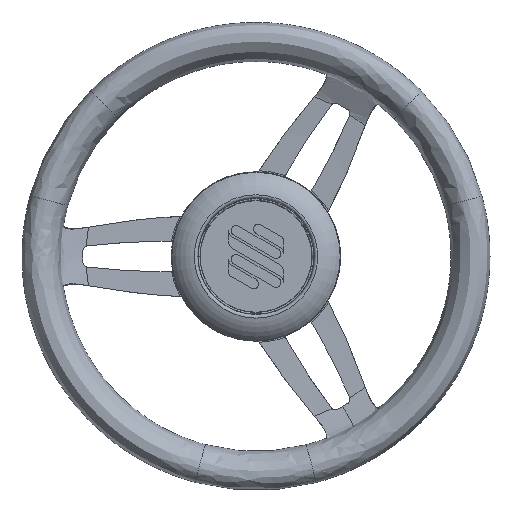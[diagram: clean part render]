
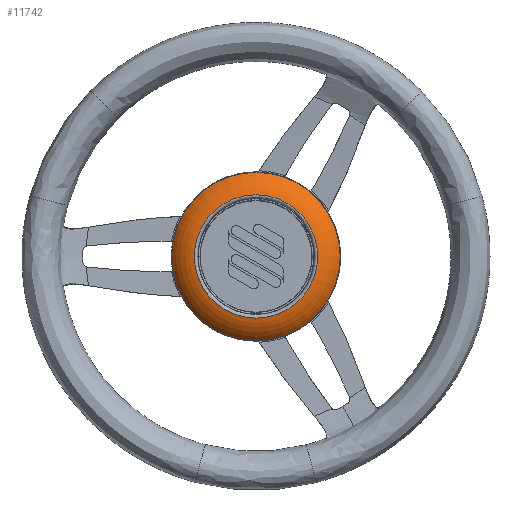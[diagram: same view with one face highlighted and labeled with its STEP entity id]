
A CAD part, top view. The second image highlights one B-rep face of the part: STEP entity #11742.
In plain terms, the highlighted toroidal (fillet/blend) face has major radius 40.262 mm and minor radius 28 mm.
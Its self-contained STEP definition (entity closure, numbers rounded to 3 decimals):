
#1313=TOROIDAL_SURFACE('',#12682,40.262,28.);
#1409=FACE_BOUND('',#3288,.T.);
#2471=FACE_OUTER_BOUND('',#3287,.T.);
#3287=EDGE_LOOP('',(#8797));
#3288=EDGE_LOOP('',(#8798));
#4305=CIRCLE('',#12661,63.051);
#4307=CIRCLE('',#12665,46.253);
#5153=VERTEX_POINT('',#30893);
#5155=VERTEX_POINT('',#30899);
#6522=EDGE_CURVE('',#5153,#5153,#4305,.T.);
#6524=EDGE_CURVE('',#5155,#5155,#4307,.T.);
#8797=ORIENTED_EDGE('',*,*,#6522,.F.);
#8798=ORIENTED_EDGE('',*,*,#6524,.F.);
#11742=ADVANCED_FACE('',(#2471,#1409),#1313,.T.);
#12661=AXIS2_PLACEMENT_3D('',#30894,#14488,#14489);
#12665=AXIS2_PLACEMENT_3D('',#30900,#14496,#14497);
#12682=AXIS2_PLACEMENT_3D('',#30924,#14530,#14531);
#14488=DIRECTION('center_axis',(0.,-1.,0.));
#14489=DIRECTION('ref_axis',(1.,0.,0.));
#14496=DIRECTION('center_axis',(0.,1.,0.));
#14497=DIRECTION('ref_axis',(1.,0.,0.));
#14530=DIRECTION('center_axis',(0.,1.,0.));
#14531=DIRECTION('ref_axis',(0.,0.,1.));
#30893=CARTESIAN_POINT('',(-63.051,5.518,0.));
#30894=CARTESIAN_POINT('Origin',(0.,5.518,0.));
#30899=CARTESIAN_POINT('',(-46.253,16.602,0.));
#30900=CARTESIAN_POINT('Origin',(0.,16.602,0.));
#30924=CARTESIAN_POINT('Origin',(0.,-10.749,0.));
